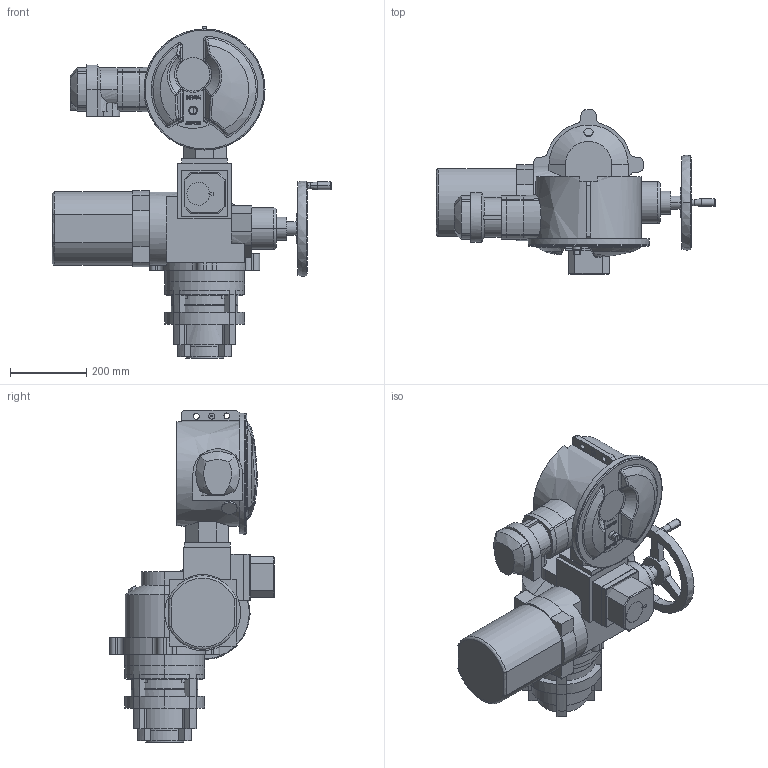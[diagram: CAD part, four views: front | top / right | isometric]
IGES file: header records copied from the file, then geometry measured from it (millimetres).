
Start section: Elysium IGES Interface
Global section: file name: H:\cad\3D-fuer-Kunden\2017_09\2SA7.5_2SA7.6.igs; native system: Creo Elements/Direct Modeling 18.1B  29-Sep-2012; preprocessor: Creo Element/Direct IGES_3D V2.2; author: Unknown; organization: Unknown; date: 20170922.145008; units: millimetre
Bounding box: 734 x 434 x 872.6 mm (x, y, z)
Volume: 54153811.7 mm3; surface area: 2191592.7 mm2
Topology: 11 solids, 11 shells, 1176 faces, 3007 edges, 1927 vertices
Faces by surface type: bspline 1176
